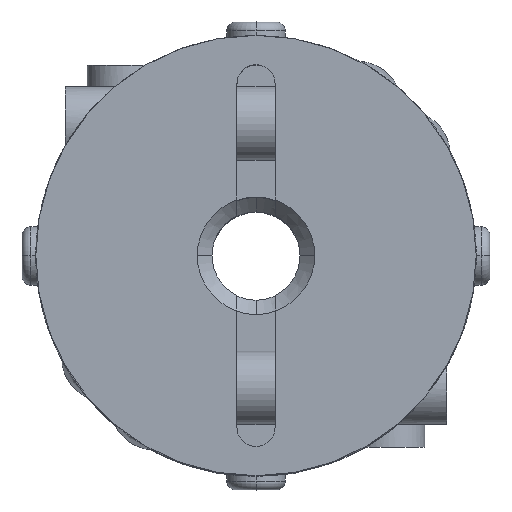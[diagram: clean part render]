
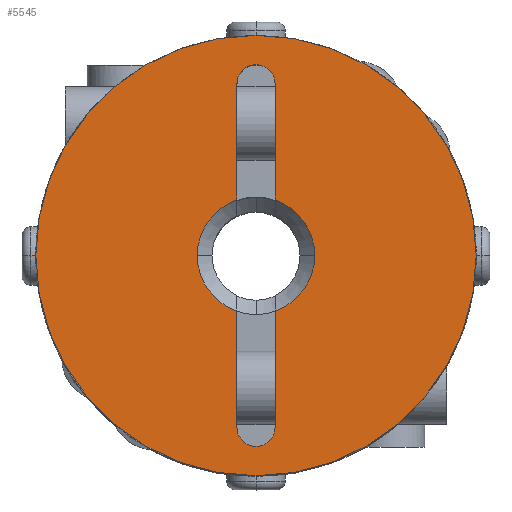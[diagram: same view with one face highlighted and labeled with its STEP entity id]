
A CAD part, top view. The second image highlights one B-rep face of the part: STEP entity #5545.
In plain terms, the highlighted planar face has unit normal (0, 0, 1).
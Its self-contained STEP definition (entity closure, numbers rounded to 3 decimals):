
#3209=CARTESIAN_POINT('',(-7.5,0.,9.0));
#3210=VERTEX_POINT('',#3209);
#3217=CARTESIAN_POINT('',(7.5,0.0,9.0));
#3218=VERTEX_POINT('',#3217);
#3219=CARTESIAN_POINT('',(0.0,0.0,9.0));
#3220=DIRECTION('',(0.0,0.0,-1.0));
#3221=DIRECTION('',(1.0,0.0,0.0));
#3222=AXIS2_PLACEMENT_3D('',#3219,#3220,#3221);
#3223=CIRCLE('',#3222,7.5);
#3224=EDGE_CURVE('',#3210,#3218,#3223,.T.);
#3600=CARTESIAN_POINT('',(2.0,0.,9.0));
#3601=VERTEX_POINT('',#3600);
#3608=CARTESIAN_POINT('',(0.65,1.891,9.0));
#3609=VERTEX_POINT('',#3608);
#3610=CARTESIAN_POINT('',(0.0,0.0,9.0));
#3611=DIRECTION('',(0.0,0.0,1.0));
#3612=DIRECTION('',(-1.0,0.0,0.0));
#3613=AXIS2_PLACEMENT_3D('',#3610,#3611,#3612);
#3614=CIRCLE('',#3613,2.0);
#3615=EDGE_CURVE('',#3601,#3609,#3614,.T.);
#3639=CARTESIAN_POINT('',(-2.0,0.,9.0));
#3640=VERTEX_POINT('',#3639);
#3648=CARTESIAN_POINT('',(-0.65,1.891,9.0));
#3649=VERTEX_POINT('',#3648);
#3663=CARTESIAN_POINT('',(0.0,0.0,9.0));
#3664=DIRECTION('',(0.0,0.0,1.0));
#3665=DIRECTION('',(-1.0,0.0,0.0));
#3666=AXIS2_PLACEMENT_3D('',#3663,#3664,#3665);
#3667=CIRCLE('',#3666,2.0);
#3668=EDGE_CURVE('',#3649,#3640,#3667,.T.);
#3678=CARTESIAN_POINT('',(0.46,6.31,9.0));
#3679=VERTEX_POINT('',#3678);
#3688=CARTESIAN_POINT('',(-0.65,5.85,9.0));
#3689=VERTEX_POINT('',#3688);
#3690=CARTESIAN_POINT('',(0.,5.85,9.0));
#3691=DIRECTION('',(0.0,0.0,1.0));
#3692=DIRECTION('',(0.707,0.707,0.0));
#3693=AXIS2_PLACEMENT_3D('',#3690,#3691,#3692);
#3694=CIRCLE('',#3693,0.65);
#3695=EDGE_CURVE('',#3679,#3689,#3694,.T.);
#3720=CARTESIAN_POINT('',(0.46,-6.31,9.0));
#3721=VERTEX_POINT('',#3720);
#3730=CARTESIAN_POINT('',(0.65,-5.85,9.0));
#3731=VERTEX_POINT('',#3730);
#3732=CARTESIAN_POINT('',(0.,-5.85,9.0));
#3733=DIRECTION('',(0.0,0.0,1.0));
#3734=DIRECTION('',(-0.707,-0.707,0.0));
#3735=AXIS2_PLACEMENT_3D('',#3732,#3733,#3734);
#3736=CIRCLE('',#3735,0.65);
#3737=EDGE_CURVE('',#3721,#3731,#3736,.T.);
#5271=CARTESIAN_POINT('',(-0.65,-5.85,9.0));
#5272=VERTEX_POINT('',#5271);
#5279=CARTESIAN_POINT('',(0.,-5.85,9.0));
#5280=DIRECTION('',(0.0,0.0,1.0));
#5281=DIRECTION('',(-0.707,-0.707,0.0));
#5282=AXIS2_PLACEMENT_3D('',#5279,#5280,#5281);
#5283=CIRCLE('',#5282,0.65);
#5284=EDGE_CURVE('',#5272,#3721,#5283,.T.);
#5295=CARTESIAN_POINT('',(0.65,-1.891,9.0));
#5296=VERTEX_POINT('',#5295);
#5297=CARTESIAN_POINT('',(0.65,-1.891,9.0));
#5298=DIRECTION('',(0.0,-1.0,0.0));
#5299=VECTOR('',#5298,3.959);
#5300=LINE('',#5297,#5299);
#5301=EDGE_CURVE('',#5296,#3731,#5300,.T.);
#5344=CARTESIAN_POINT('',(-0.65,1.891,9.0));
#5345=DIRECTION('',(0.0,1.0,0.0));
#5346=VECTOR('',#5345,3.959);
#5347=LINE('',#5344,#5346);
#5348=EDGE_CURVE('',#3649,#3689,#5347,.T.);
#5395=CARTESIAN_POINT('',(0.65,5.85,9.0));
#5396=VERTEX_POINT('',#5395);
#5403=CARTESIAN_POINT('',(0.,5.85,9.0));
#5404=DIRECTION('',(0.0,0.0,1.0));
#5405=DIRECTION('',(0.707,0.707,0.0));
#5406=AXIS2_PLACEMENT_3D('',#5403,#5404,#5405);
#5407=CIRCLE('',#5406,0.65);
#5408=EDGE_CURVE('',#5396,#3679,#5407,.T.);
#5442=CARTESIAN_POINT('',(0.65,5.85,9.0));
#5443=DIRECTION('',(0.0,-1.0,0.0));
#5444=VECTOR('',#5443,3.959);
#5445=LINE('',#5442,#5444);
#5446=EDGE_CURVE('',#5396,#3609,#5445,.T.);
#5476=CARTESIAN_POINT('',(-0.65,-1.891,9.0));
#5477=VERTEX_POINT('',#5476);
#5491=CARTESIAN_POINT('',(-0.65,-5.85,9.0));
#5492=DIRECTION('',(0.0,1.0,0.0));
#5493=VECTOR('',#5492,3.959);
#5494=LINE('',#5491,#5493);
#5495=EDGE_CURVE('',#5272,#5477,#5494,.T.);
#5504=CARTESIAN_POINT('',(0.682,0.,9.0));
#5505=DIRECTION('',(0.0,0.0,1.0));
#5506=DIRECTION('',(1.0,0.0,0.0));
#5507=AXIS2_PLACEMENT_3D('',#5504,#5505,#5506);
#5508=PLANE('',#5507);
#5509=CARTESIAN_POINT('',(0.0,0.0,9.0));
#5510=DIRECTION('',(0.0,0.0,-1.0));
#5511=DIRECTION('',(1.0,0.0,0.0));
#5512=AXIS2_PLACEMENT_3D('',#5509,#5510,#5511);
#5513=CIRCLE('',#5512,7.5);
#5514=EDGE_CURVE('',#3218,#3210,#5513,.T.);
#5515=ORIENTED_EDGE('',*,*,#5514,.F.);
#5516=ORIENTED_EDGE('',*,*,#3224,.F.);
#5517=EDGE_LOOP('',(#5515,#5516));
#5518=FACE_OUTER_BOUND('',#5517,.T.);
#5519=ORIENTED_EDGE('',*,*,#5301,.T.);
#5520=ORIENTED_EDGE('',*,*,#3737,.F.);
#5521=ORIENTED_EDGE('',*,*,#5284,.F.);
#5522=ORIENTED_EDGE('',*,*,#5495,.T.);
#5523=CARTESIAN_POINT('',(0.0,0.0,9.0));
#5524=DIRECTION('',(0.0,0.0,1.0));
#5525=DIRECTION('',(-1.0,0.0,0.0));
#5526=AXIS2_PLACEMENT_3D('',#5523,#5524,#5525);
#5527=CIRCLE('',#5526,2.0);
#5528=EDGE_CURVE('',#3640,#5477,#5527,.T.);
#5529=ORIENTED_EDGE('',*,*,#5528,.F.);
#5530=ORIENTED_EDGE('',*,*,#3668,.F.);
#5531=ORIENTED_EDGE('',*,*,#5348,.T.);
#5532=ORIENTED_EDGE('',*,*,#3695,.F.);
#5533=ORIENTED_EDGE('',*,*,#5408,.F.);
#5534=ORIENTED_EDGE('',*,*,#5446,.T.);
#5535=ORIENTED_EDGE('',*,*,#3615,.F.);
#5536=CARTESIAN_POINT('',(0.0,0.0,9.0));
#5537=DIRECTION('',(0.0,0.0,1.0));
#5538=DIRECTION('',(-1.0,0.0,0.0));
#5539=AXIS2_PLACEMENT_3D('',#5536,#5537,#5538);
#5540=CIRCLE('',#5539,2.0);
#5541=EDGE_CURVE('',#5296,#3601,#5540,.T.);
#5542=ORIENTED_EDGE('',*,*,#5541,.F.);
#5543=EDGE_LOOP('',(#5519,#5520,#5521,#5522,#5529,#5530,#5531,#5532,#5533,#5534,#5535,#5542));
#5544=FACE_BOUND('',#5543,.T.);
#5545=ADVANCED_FACE('',(#5518,#5544),#5508,.T.);
